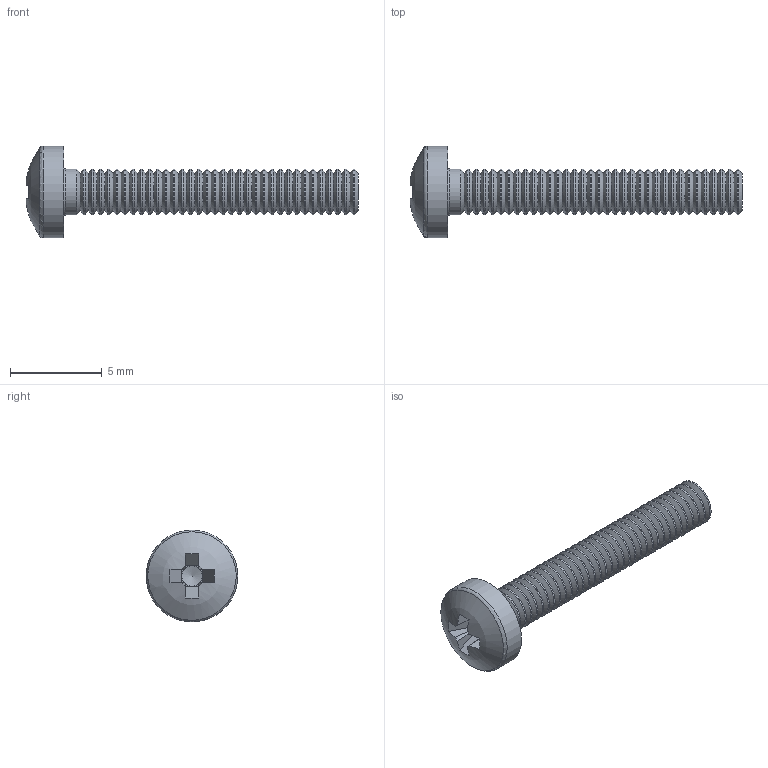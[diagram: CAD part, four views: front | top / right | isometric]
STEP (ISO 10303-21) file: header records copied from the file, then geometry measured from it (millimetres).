
FILE_DESCRIPTION(/* description */ ('STEP AP242 Edition 2','CAx-IF Rec.Pracs.---Representation and Presentation of Product Manufacturing Information (PMI)---4.0---2014-10-13','CAx-IF Rec.Pracs.---3D Tessellated Geometry---0.4---2014-09-14','2;1','CAx-IF Rec.Pracs.---User Defined Attributes---1.5---2016-08-15'),/* implementation_level */ '2;1');
FILE_NAME(/* name */ 'Assem2h - pan head cross recess screw_iso (4)',/* time_stamp */ '2025-12-01T14:50:27Z',/* author */ (''),/* organization */ (''),/* preprocessor_version */ 'ST-DEVELOPER v20',/* originating_system */ 'ONSHAPE BY PTC INC, 1.207',/* authorisation */ ' ');
FILE_SCHEMA (('AP242_MANAGED_MODEL_BASED_3D_ENGINEERING_MIM_LF { 1 0 10303 442 3 1 4 }'));
Length unit declared in the file: metre
Products named in the file (1): pan head cross recess screw_iso
Bounding box: 18.05 x 5 x 5 mm (x, y, z)
Volume: 97 mm3; surface area: 246.5 mm2
Topology: 1 solids, 1 shells, 139 faces, 290 edges, 153 vertices
Faces by surface type: cone 78, cylinder 36, plane 22, torus 2, sphere 1
Full cylindrical faces by diameter (mm): 2.5 x35, 5 x1
Entity records: 3054 total; most frequent: DIRECTION 594, CARTESIAN_POINT 491, ORIENTED_EDGE 354, AXIS2_PLACEMENT_3D 285, FACE_BOUND 249, EDGE_LOOP 248, EDGE_CURVE 177, VERTEX_POINT 150
